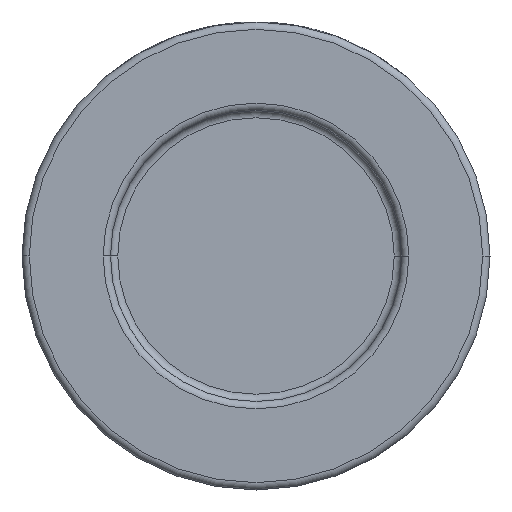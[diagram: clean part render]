
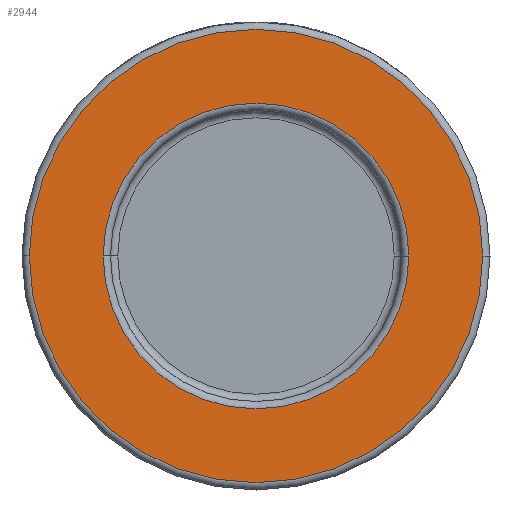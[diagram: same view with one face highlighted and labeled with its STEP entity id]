
A CAD part, front view. The second image highlights one B-rep face of the part: STEP entity #2944.
In plain terms, the highlighted planar face has unit normal (0, -1, 0).
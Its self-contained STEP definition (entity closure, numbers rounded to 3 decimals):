
#47 = DIRECTION ( 'NONE',  ( 0., -1., 0. ) ) ;
#193 = CARTESIAN_POINT ( 'NONE',  ( 0., -22., 0. ) ) ;
#886 = CARTESIAN_POINT ( 'NONE',  ( 0., -22., 0. ) ) ;
#954 = CARTESIAN_POINT ( 'NONE',  ( 0., -22., 0. ) ) ;
#1319 = DIRECTION ( 'NONE',  ( 1., 0., 0. ) ) ;
#1391 = EDGE_CURVE ( 'NONE', #3553, #3898, #2928, .T. ) ;
#1461 = EDGE_LOOP ( 'NONE', ( #3555, #1552 ) ) ;
#1552 = ORIENTED_EDGE ( 'NONE', *, *, #4400, .T. ) ;
#1601 = DIRECTION ( 'NONE',  ( 1., 0., 0. ) ) ;
#1687 = ORIENTED_EDGE ( 'NONE', *, *, #1391, .T. ) ;
#1937 = DIRECTION ( 'NONE',  ( 0., 1., 0. ) ) ;
#1963 = DIRECTION ( 'NONE',  ( 1., 0., 0. ) ) ;
#1976 = CIRCLE ( 'NONE', #2418, 20.9 ) ;
#2076 = VERTEX_POINT ( 'NONE', #4401 ) ;
#2418 = AXIS2_PLACEMENT_3D ( 'NONE', #886, #1937, #3269 ) ;
#2424 = ORIENTED_EDGE ( 'NONE', *, *, #2910, .T. ) ;
#2640 = AXIS2_PLACEMENT_3D ( 'NONE', #193, #3975, #1601 ) ;
#2709 = AXIS2_PLACEMENT_3D ( 'NONE', #2759, #47, #3174 ) ;
#2759 = CARTESIAN_POINT ( 'NONE',  ( 32., -22., 0. ) ) ;
#2778 = AXIS2_PLACEMENT_3D ( 'NONE', #954, #3762, #1319 ) ;
#2910 = EDGE_CURVE ( 'NONE', #3898, #3553, #4269, .T. ) ;
#2928 = CIRCLE ( 'NONE', #3525, 31. ) ;
#2932 = CIRCLE ( 'NONE', #2640, 20.9 ) ;
#2944 = ADVANCED_FACE ( 'NONE', ( #3893, #3520 ), #3547, .T. ) ;
#3023 = DIRECTION ( 'NONE',  ( 0., -1., 0. ) ) ;
#3108 = VERTEX_POINT ( 'NONE', #4383 ) ;
#3174 = DIRECTION ( 'NONE',  ( 1., 0., 0. ) ) ;
#3269 = DIRECTION ( 'NONE',  ( 1., 0., 0. ) ) ;
#3314 = CARTESIAN_POINT ( 'NONE',  ( 31., -22., 0. ) ) ;
#3319 = CARTESIAN_POINT ( 'NONE',  ( -31., -22., 0. ) ) ;
#3508 = EDGE_CURVE ( 'NONE', #3108, #2076, #1976, .T. ) ;
#3520 = FACE_OUTER_BOUND ( 'NONE', #4551, .T. ) ;
#3525 = AXIS2_PLACEMENT_3D ( 'NONE', #4444, #3023, #1963 ) ;
#3547 = PLANE ( 'NONE',  #2709 ) ;
#3553 = VERTEX_POINT ( 'NONE', #3319 ) ;
#3555 = ORIENTED_EDGE ( 'NONE', *, *, #3508, .T. ) ;
#3762 = DIRECTION ( 'NONE',  ( 0., -1., 0. ) ) ;
#3893 = FACE_BOUND ( 'NONE', #1461, .T. ) ;
#3898 = VERTEX_POINT ( 'NONE', #3314 ) ;
#3975 = DIRECTION ( 'NONE',  ( 0., 1., 0. ) ) ;
#4269 = CIRCLE ( 'NONE', #2778, 31. ) ;
#4383 = CARTESIAN_POINT ( 'NONE',  ( 20.9, -22., 0. ) ) ;
#4400 = EDGE_CURVE ( 'NONE', #2076, #3108, #2932, .T. ) ;
#4401 = CARTESIAN_POINT ( 'NONE',  ( -20.9, -22., 0. ) ) ;
#4444 = CARTESIAN_POINT ( 'NONE',  ( 0., -22., 0. ) ) ;
#4551 = EDGE_LOOP ( 'NONE', ( #2424, #1687 ) ) ;
